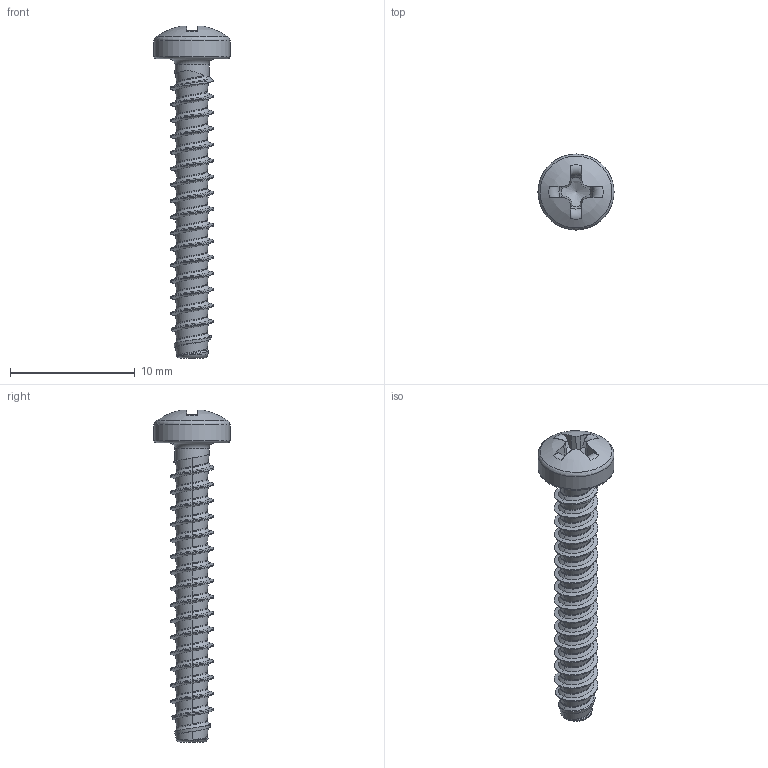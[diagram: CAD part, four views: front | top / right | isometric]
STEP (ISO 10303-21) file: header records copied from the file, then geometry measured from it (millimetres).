
FILE_DESCRIPTION(/* description */ (''),/* implementation_level */ '2;1');
FILE_NAME(/* name */ 'KN6032-STSplus-35x24-H2.step',/* time_stamp */ '2017-10-10T15:09:07+02:00',/* author */ (''),/* organization */ (''),/* preprocessor_version */ 'ST-DEVELOPER v16',/* originating_system */ 'SIEMENS PLM Software NX 10.0',/* authorisation */ '');
FILE_SCHEMA (('AUTOMOTIVE_DESIGN { 1 0 10303 214 3 1 1 1 }'));
Length unit declared in the file: millimetre
Products named in the file (1): KN6032-STSplus-35x24-H2
Bounding box: 6.1 x 6.1 x 26.62 mm (x, y, z)
Volume: 196.1 mm3; surface area: 403.1 mm2
Topology: 1 solids, 1 shells, 130 faces, 311 edges, 183 vertices
Faces by surface type: bspline 93, plane 18, torus 8, cone 7, cylinder 3, sphere 1
Full cylindrical faces by diameter (mm): 2.73 x1, 6.1 x1
Entity records: 8643 total; most frequent: CARTESIAN_POINT 6278, ORIENTED_EDGE 594, EDGE_CURVE 297, DIRECTION 255, VERTEX_POINT 178, B_SPLINE_CURVE_WITH_KNOTS 157, EDGE_LOOP 138, ADVANCED_FACE 130
